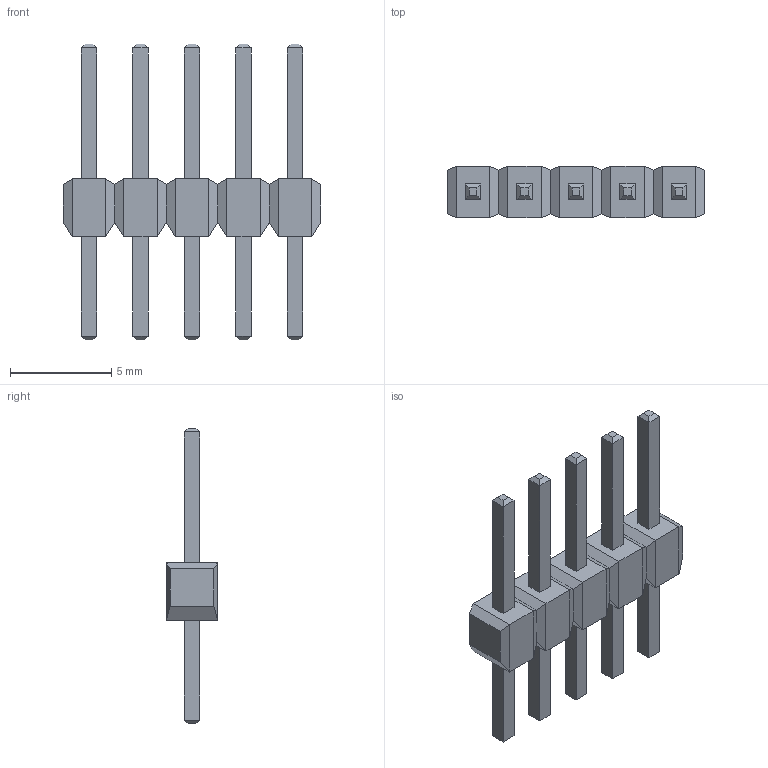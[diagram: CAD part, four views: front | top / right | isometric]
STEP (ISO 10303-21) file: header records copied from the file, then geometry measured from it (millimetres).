
FILE_DESCRIPTION(('STEP AP214'),'1');
FILE_NAME('CON5_1X5_P100UM_HDR_TYC','2021-11-21T13:02:56',(''),(''),'','','');
FILE_SCHEMA(('AUTOMOTIVE_DESIGN'));
Length unit declared in the file: millimetre
Products named in the file (1): product
Bounding box: 12.7 x 2.54 x 14.58 mm (x, y, z)
Volume: 118.4 mm3; surface area: 338.4 mm2
Topology: 11 solids, 11 shells, 162 faces, 324 edges, 184 vertices
Faces by surface type: plane 162
Entity records: 3849 total; most frequent: DIRECTION 650, ORIENTED_EDGE 648, CARTESIAN_POINT 347, EDGE_CURVE 324, LINE 324, VECTOR 324, VERTEX_POINT 184, AXIS2_PLACEMENT_3D 163
